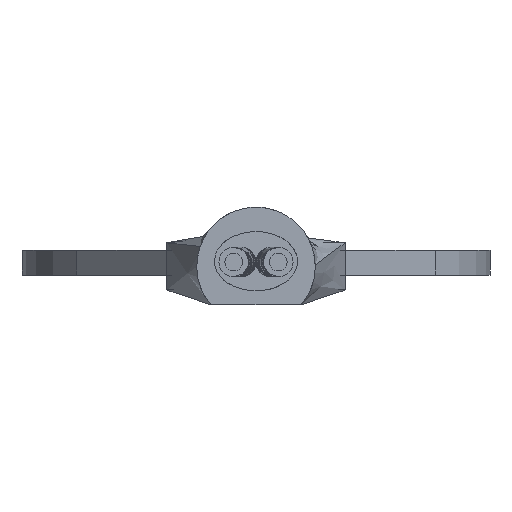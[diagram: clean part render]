
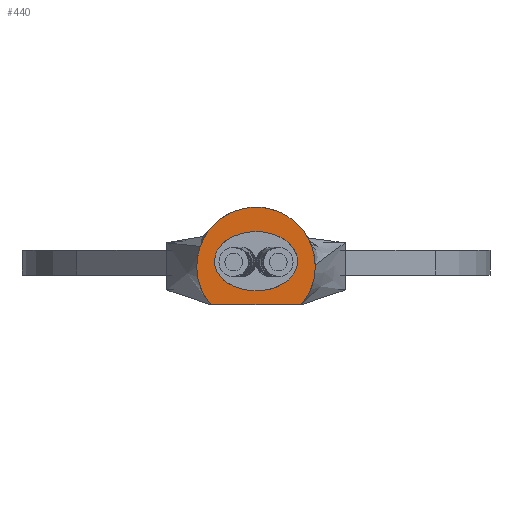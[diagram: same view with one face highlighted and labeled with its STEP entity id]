
A CAD part, left-side view. The second image highlights one B-rep face of the part: STEP entity #440.
In plain terms, the highlighted planar face has unit normal (-1, 0, 0).
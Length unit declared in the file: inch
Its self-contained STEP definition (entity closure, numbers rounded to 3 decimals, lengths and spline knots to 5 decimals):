
#13=ELLIPSE('',#492,0.07,0.05);
#14=ELLIPSE('',#493,0.07,0.05);
#64=FACE_BOUND('',#133,.T.);
#77=PLANE('',#499);
#101=FACE_OUTER_BOUND('',#132,.T.);
#132=EDGE_LOOP('',(#374,#375));
#133=EDGE_LOOP('',(#376,#377));
#170=LINE('',#826,#194);
#194=VECTOR('',#587,0.3937);
#206=CIRCLE('',#497,0.1);
#231=VERTEX_POINT('',#808);
#232=VERTEX_POINT('',#809);
#236=VERTEX_POINT('',#819);
#237=VERTEX_POINT('',#821);
#278=EDGE_CURVE('',#231,#232,#13,.T.);
#279=EDGE_CURVE('',#232,#231,#14,.T.);
#284=EDGE_CURVE('',#237,#236,#206,.T.);
#287=EDGE_CURVE('',#236,#237,#170,.T.);
#374=ORIENTED_EDGE('',*,*,#284,.T.);
#375=ORIENTED_EDGE('',*,*,#287,.T.);
#376=ORIENTED_EDGE('',*,*,#278,.T.);
#377=ORIENTED_EDGE('',*,*,#279,.T.);
#440=ADVANCED_FACE('',(#101,#64),#77,.F.);
#492=AXIS2_PLACEMENT_3D('',#810,#569,#570);
#493=AXIS2_PLACEMENT_3D('',#811,#571,#572);
#497=AXIS2_PLACEMENT_3D('',#822,#581,#582);
#499=AXIS2_PLACEMENT_3D('',#827,#588,#589);
#569=DIRECTION('center_axis',(1.,0.,0.));
#570=DIRECTION('ref_axis',(0.,1.,0.));
#571=DIRECTION('center_axis',(1.,0.,0.));
#572=DIRECTION('ref_axis',(0.,1.,0.));
#581=DIRECTION('center_axis',(-1.,0.,0.));
#582=DIRECTION('ref_axis',(0.,-0.762,-0.648));
#587=DIRECTION('',(0.,-1.,0.));
#588=DIRECTION('center_axis',(1.,0.,0.));
#589=DIRECTION('ref_axis',(0.,0.,-1.));
#808=CARTESIAN_POINT('',(-1.09499,-0.00127,0.0525));
#809=CARTESIAN_POINT('',(-1.09499,-0.07127,0.0025));
#810=CARTESIAN_POINT('Origin',(-1.09499,-0.00127,0.0025));
#811=CARTESIAN_POINT('Origin',(-1.09499,-0.00127,0.0025));
#819=CARTESIAN_POINT('',(-1.09499,0.07494,-0.071));
#821=CARTESIAN_POINT('',(-1.09499,-0.07747,-0.071));
#822=CARTESIAN_POINT('Origin',(-1.09499,-0.00127,-0.00625));
#826=CARTESIAN_POINT('',(-1.09499,0.07494,-0.071));
#827=CARTESIAN_POINT('Origin',(-1.09499,-0.00127,-0.00309));
